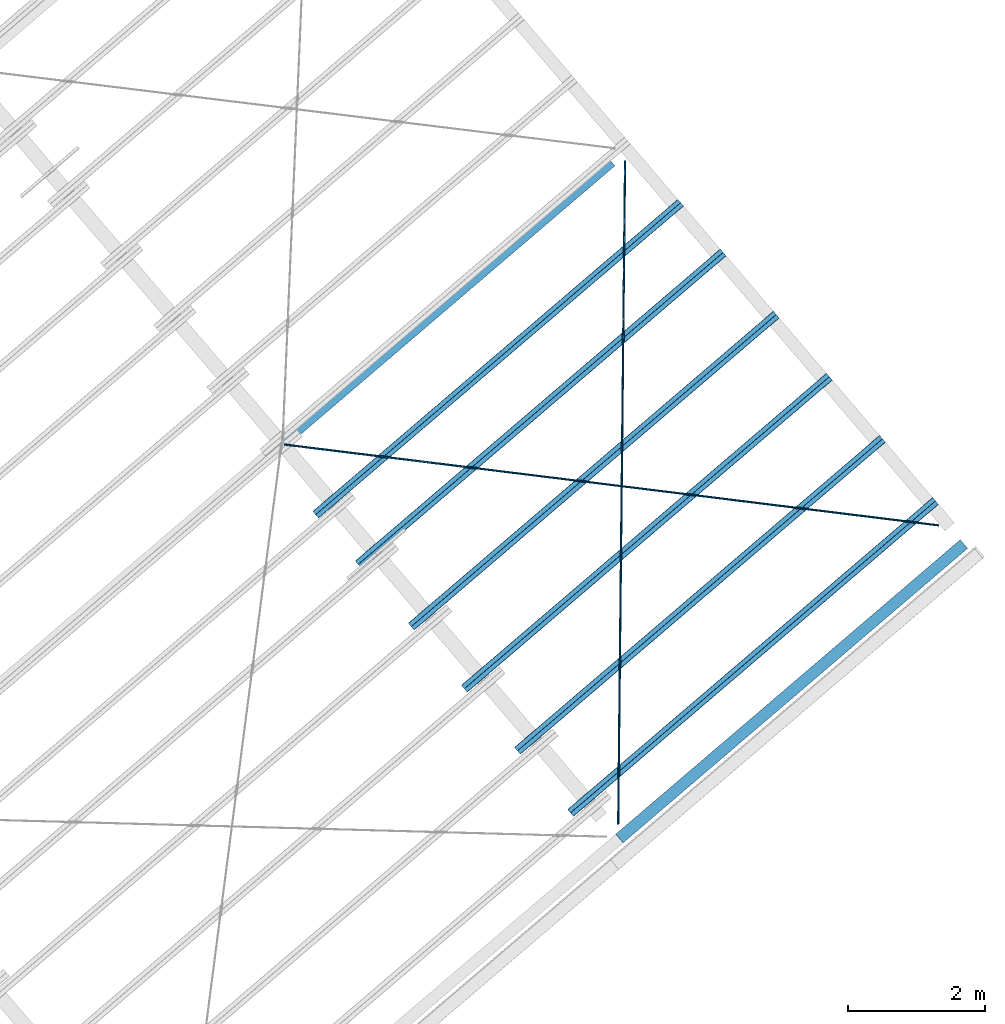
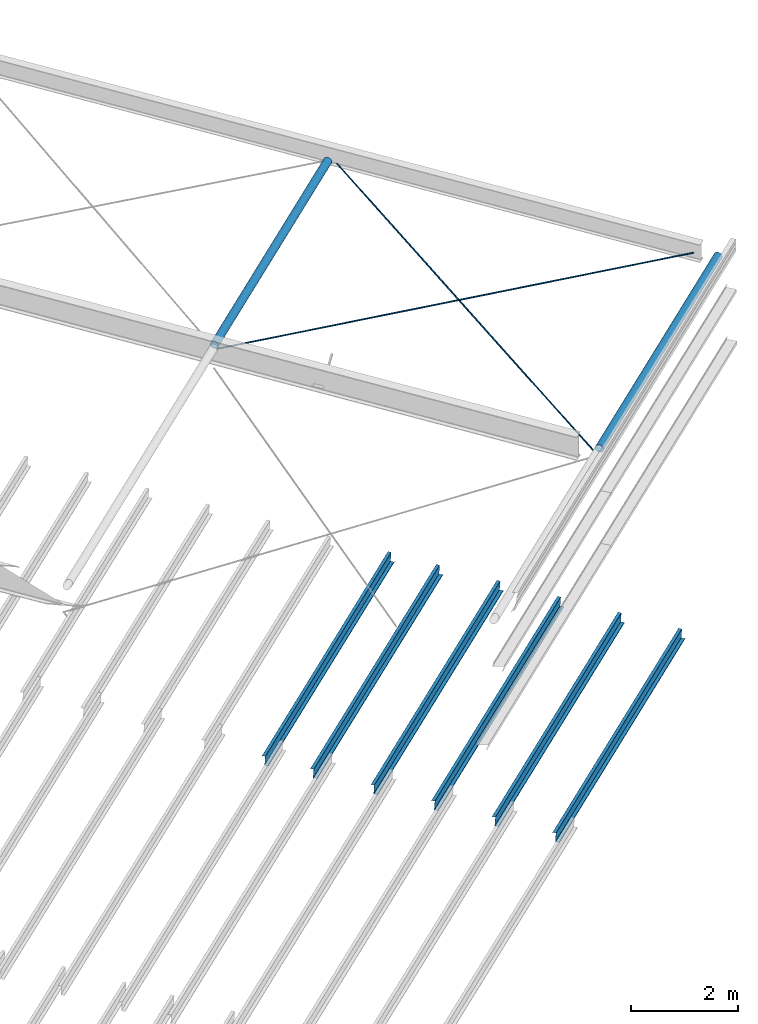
# One storey, part 16 of 25: 10 beams, 2 elements without a shape of their own.
"""IFC2X3 building model written with IfcOpenShell, lengths in millimetres."""

import ifcopenshell
import ifcopenshell.guid

model = None  # the IFC model being written
_history = None  # IfcOwnerHistory: only IFC2X3 demands one
_inside = {}  # id of a spatial element -> (the spatial element, [elements in it])
_under = {}  # id of a project, library or spatial element -> (it, [spatial elements below it])
_declared = {}  # id of a project -> (the project, [libraries it declares])
_typed = {}  # id of a type object -> (the type object, [elements of that type])
_made_of = {}  # id of a material, layer set ... -> (it, [elements and type objects made of it])


def new_model(schema):
    """Start an empty IFC model of exactly this schema.

    Asked for "IFC4X3", IfcOpenShell would pick the latest addendum, in which some entities
    have other attributes; the version numbers below select the first issue.
    IFC2X3 requires an IfcOwnerHistory on every rooted entity: one is made here for all.
    """
    global model, _history
    if schema == "IFC4X3":
        model = ifcopenshell.file(schema_version=(4, 3, 0, 0))
    else:
        model = ifcopenshell.file(schema=schema)
    _inside.clear()
    _under.clear()
    _declared.clear()
    _typed.clear()
    _made_of.clear()
    _history = None
    if model.schema == "IFC2X3":
        org = make("IfcOrganization", Name="unknown")
        user = make(
            "IfcPersonAndOrganization",
            ThePerson=make("IfcPerson", FamilyName="unknown"),
            TheOrganization=org,
        )
        app = make(
            "IfcApplication",
            ApplicationDeveloper=org,
            Version="unknown",
            ApplicationFullName="unknown",
            ApplicationIdentifier="unknown",
        )
        _history = make(
            "IfcOwnerHistory",
            OwningUser=user,
            OwningApplication=app,
            ChangeAction="ADDED",
            CreationDate=0,
        )
    return model


def make(cls, **values):
    """One entity of the class cls with the attributes given. An attribute that is None is left unset."""
    return model.create_entity(
        cls, **{name: value for name, value in values.items() if value is not None}
    )


def entity(cls, *values):
    """Any entity or typed value of the class cls, its attributes in the order of the schema. None: left unset."""
    e = model.create_entity(cls)
    for i, value in enumerate(values):
        if value is not None:
            e[i] = value
    return e


def rooted(cls, **values):
    """An entity with a GlobalId (a new one), such as an element, a storey or a relation."""
    return make(cls, GlobalId=ifcopenshell.guid.new(), OwnerHistory=_history, **values)


def si_unit(unit_type, name, prefix=None):
    """IfcSIUnit, for example si_unit("LENGTHUNIT", "METRE", prefix="MILLI")."""
    return make("IfcSIUnit", UnitType=unit_type, Prefix=prefix, Name=name)


def converted_unit(unit_type, name, factor, base, dimensions=None, offset=None):
    """IfcConversionBasedUnit, such as the inch: factor (a typed value) times the base unit."""
    return make(
        "IfcConversionBasedUnit"
        if offset is None
        else "IfcConversionBasedUnitWithOffset",
        ConversionOffset=offset,
        Dimensions=None
        if dimensions is None
        else entity("IfcDimensionalExponents", *dimensions),
        UnitType=unit_type,
        Name=name,
        ConversionFactor=make(
            "IfcMeasureWithUnit", ValueComponent=factor, UnitComponent=base
        ),
    )


def derived_unit(unit_type, elements):
    """IfcDerivedUnit: a product of units, each with its exponent."""
    return make(
        "IfcDerivedUnit",
        Elements=[
            make("IfcDerivedUnitElement", Unit=unit, Exponent=power)
            for unit, power in elements
        ],
        UnitType=unit_type,
    )


def assignment(units):
    """IfcUnitAssignment: the units of a project."""
    return None if units is None else make("IfcUnitAssignment", Units=units)


def point(xyz):
    """IfcCartesianPoint."""
    return None if xyz is None else make("IfcCartesianPoint", Coordinates=xyz)


def direction(xyz):
    """IfcDirection."""
    return None if xyz is None else make("IfcDirection", DirectionRatios=xyz)


def frame(location, z_axis=None, x_axis=None):
    """IfcAxis2Placement3D, a coordinate frame: its origin and axes. An axis left out is left unset."""
    return make(
        "IfcAxis2Placement3D",
        Location=point(location),
        Axis=direction(z_axis),
        RefDirection=direction(x_axis),
    )


def frame_2d(location, x_axis=None):
    """IfcAxis2Placement2D, a coordinate frame in the plane: its origin and x axis."""
    return make(
        "IfcAxis2Placement2D", Location=point(location), RefDirection=direction(x_axis)
    )


def origin():
    """The frame at (0, 0, 0) with its axes left unset."""
    return frame((0.0, 0.0, 0.0))


def origin_2d_with_axis():
    """The frame at (0, 0) in the plane with the x axis (1, 0) written out."""
    return frame_2d((0.0, 0.0), x_axis=(1.0, 0.0))


def place(relative_to, where):
    """IfcLocalPlacement: puts the frame where relative to a parent placement (None: the world)."""
    return make(
        "IfcLocalPlacement", PlacementRelTo=relative_to, RelativePlacement=where
    )


def context(
    kind, dimensions, precision=None, world=None, true_north=None, identifier=None
):
    """IfcGeometricRepresentationContext, for example the 3D "Model" context."""
    return make(
        "IfcGeometricRepresentationContext",
        ContextIdentifier=identifier,
        ContextType=kind,
        CoordinateSpaceDimension=dimensions,
        Precision=precision,
        WorldCoordinateSystem=world,
        TrueNorth=true_north,
    )


def subcontext(parent, identifier, kind, view, scale=None):
    """IfcGeometricRepresentationSubContext, for example "Body" below "Model"."""
    return make(
        "IfcGeometricRepresentationSubContext",
        ContextIdentifier=identifier,
        ContextType=kind,
        ParentContext=parent,
        TargetScale=scale,
        TargetView=view,
    )


def project(units=None, contexts=None):
    """IfcProject with its units and contexts."""
    return rooted(
        "IfcProject",
        Name="project",
        RepresentationContexts=contexts,
        UnitsInContext=assignment(units),
    )


def spatial(cls, under=None, at=None, **own):
    """A site, building, storey or space (cls), placed at a placement, below another one or the project."""
    s = rooted(cls, ObjectPlacement=at, **own)
    if under is not None:
        _under.setdefault(under.id(), (under, []))[1].append(s)
    return s


def polyline(points):
    """IfcPolyline through the points."""
    return make("IfcPolyline", Points=[point(p) for p in points])


def circle_curve(where, radius):
    """IfcCircle in the frame where."""
    return make("IfcCircle", Position=where, Radius=radius)


def parameter(value):
    """IfcParameterValue: where a trimmed curve begins or ends, as a parameter of its basis curve."""
    return model.create_entity("IfcParameterValue", value)


def trimmed(basis, trim1, trim2, sense, master):
    """IfcTrimmedCurve: the piece of a basis curve between two trims."""
    return make(
        "IfcTrimmedCurve",
        BasisCurve=basis,
        Trim1=trim1,
        Trim2=trim2,
        SenseAgreement=sense,
        MasterRepresentation=master,
    )


def segment(curve, same_sense, transition):
    """IfcCompositeCurveSegment."""
    return make(
        "IfcCompositeCurveSegment",
        Transition=transition,
        SameSense=same_sense,
        ParentCurve=curve,
    )


def composite_curve(segments, self_intersect=None):
    """IfcCompositeCurve: segments joined end to end."""
    return make("IfcCompositeCurve", Segments=segments, SelfIntersect=self_intersect)


def profile(cls, at=None, kind="AREA", **sizes):
    """A parametric profile (cls). Its sizes go by their IFC names, for example OverallWidth=200.0."""
    return make(cls, ProfileType=kind, Position=at, **sizes)


def circle(**sizes):
    """IfcCircleProfileDef."""
    return profile("IfcCircleProfileDef", **sizes)


def hollow_circle(**sizes):
    """IfcCircleHollowProfileDef."""
    return profile("IfcCircleHollowProfileDef", **sizes)


def outline(outer, holes=None, kind="AREA"):
    """IfcArbitraryClosedProfileDef: a profile drawn as a closed curve; with holes, ...WithVoids."""
    if holes is None:
        return make("IfcArbitraryClosedProfileDef", ProfileType=kind, OuterCurve=outer)
    return make(
        "IfcArbitraryProfileDefWithVoids",
        ProfileType=kind,
        OuterCurve=outer,
        InnerCurves=holes,
    )


def extrude(swept, where, along, depth):
    """IfcExtrudedAreaSolid: the profile swept, set in the frame where, extruded along a direction by depth."""
    return make(
        "IfcExtrudedAreaSolid",
        SweptArea=swept,
        Position=where,
        ExtrudedDirection=direction(along),
        Depth=depth,
    )


def shape(context_of_items, identifier, shape_type, items):
    """IfcShapeRepresentation: the items that make up one representation, for example the "Body"."""
    return make(
        "IfcShapeRepresentation",
        ContextOfItems=context_of_items,
        RepresentationIdentifier=identifier,
        RepresentationType=shape_type,
        Items=items,
    )


def material(Name=None, Category=None):
    """IfcMaterial."""
    return make("IfcMaterial", Name=Name, Category=Category)


def made_of(thing, what):
    """Note that an element or type object is made of a material, layer set ...; save() writes the relation."""
    if what is not None:
        _made_of.setdefault(what.id(), (what, []))[1].append(thing)
    return thing


def type_object(cls, material=None, **own):
    """A type object (cls), such as IfcWallType, which elements share."""
    return made_of(rooted(cls, **own), material)


def element(
    cls,
    number,
    at=None,
    inside=None,
    cuts=None,
    type_object=None,
    material=None,
    context=None,
    identifier="Body",
    shape_type=None,
    held_by="IfcProductDefinitionShape",
    body=None,
    shapes=None,
    **own,
):
    """One element of the class cls, such as IfcWall. Its Tag is "e" and its number.

    at: its placement. inside: the storey or other place that contains it. cuts: it is an
    opening in that element (IfcRelVoidsElement). A single representation is given by context,
    identifier, shape_type and body (its items); several are given by shapes. held_by: the class
    of the entity that holds the representations. save() writes the other relations.
    """
    e = rooted(cls, Tag="e%d" % number, ObjectPlacement=at, **own)
    if body is not None:
        shapes = [shape(context, identifier, shape_type, body)]
    if shapes is not None:
        e.Representation = make(held_by, Representations=shapes)
    if inside is not None:
        _inside.setdefault(inside.id(), (inside, []))[1].append(e)
    if cuts is not None:
        rooted(
            "IfcRelVoidsElement", RelatingBuildingElement=cuts, RelatedOpeningElement=e
        )
    if type_object is not None:
        _typed.setdefault(type_object.id(), (type_object, []))[1].append(e)
    return made_of(e, material)


def aggregate(whole, parts):
    """IfcRelAggregates: a whole, such as a stair, and the parts it consists of."""
    return rooted("IfcRelAggregates", RelatingObject=whole, RelatedObjects=parts)


def save(model, path):
    """Write the relations noted so far, then the file.

    IfcRelAggregates (storeys below a building ...), IfcRelContainedInSpatialStructure (elements
    in a storey), IfcRelDefinesByType, IfcRelAssociatesMaterial and IfcRelDeclares: one each for
    every whole, place, type object, material and project.
    """
    for whole, parts in _under.values():
        aggregate(whole, parts)
    for where, things in _inside.values():
        rooted(
            "IfcRelContainedInSpatialStructure",
            RelatedElements=things,
            RelatingStructure=where,
        )
    for kind, things in _typed.values():
        rooted("IfcRelDefinesByType", RelatedObjects=things, RelatingType=kind)
    for what, things in _made_of.values():
        rooted("IfcRelAssociatesMaterial", RelatedObjects=things, RelatingMaterial=what)
    for by, libraries in _declared.values():
        rooted("IfcRelDeclares", RelatingContext=by, RelatedDefinitions=libraries)
    model.write(path)


model = new_model("IFC2X3")

# Units and contexts
model_context = context("Model", 3, precision=0.01, world=origin(), true_north=direction((6.123031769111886e-17, 1.0)))
body_context = subcontext(model_context, "Body", "Model", "MODEL_VIEW")
ifc_project = project(units=[si_unit("LENGTHUNIT", "METRE", prefix="MILLI"), si_unit("AREAUNIT", "SQUARE_METRE"), si_unit("VOLUMEUNIT", "CUBIC_METRE"), converted_unit("PLANEANGLEUNIT", "DEGREE", entity("IfcRatioMeasure", 0.017453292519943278), si_unit("PLANEANGLEUNIT", "RADIAN"), dimensions=[0, 0, 0, 0, 0, 0, 0]), si_unit("MASSUNIT", "GRAM", prefix="KILO"), derived_unit("MASSDENSITYUNIT", [(si_unit("MASSUNIT", "GRAM", prefix="KILO"), 1), (si_unit("LENGTHUNIT", "METRE"), -3)]), derived_unit("MOMENTOFINERTIAUNIT", [(si_unit("LENGTHUNIT", "METRE"), 4)]), si_unit("TIMEUNIT", "SECOND"), si_unit("FREQUENCYUNIT", "HERTZ"), si_unit("THERMODYNAMICTEMPERATUREUNIT", "DEGREE_CELSIUS"), derived_unit("THERMALTRANSMITTANCEUNIT", [(si_unit("MASSUNIT", "GRAM", prefix="KILO"), 1), (si_unit("THERMODYNAMICTEMPERATUREUNIT", "KELVIN"), -1), (si_unit("TIMEUNIT", "SECOND"), -3)]), derived_unit("VOLUMETRICFLOWRATEUNIT", [(si_unit("LENGTHUNIT", "METRE"), 3), (si_unit("TIMEUNIT", "SECOND"), -1)]), derived_unit("MASSFLOWRATEUNIT", [(si_unit("MASSUNIT", "GRAM", prefix="KILO"), 1), (si_unit("TIMEUNIT", "SECOND"), -1)]), derived_unit("ROTATIONALFREQUENCYUNIT", [(si_unit("TIMEUNIT", "SECOND"), -1)]), si_unit("ELECTRICCURRENTUNIT", "AMPERE"), si_unit("ELECTRICVOLTAGEUNIT", "VOLT"), si_unit("POWERUNIT", "WATT"), si_unit("FORCEUNIT", "NEWTON", prefix="KILO"), si_unit("ILLUMINANCEUNIT", "LUX"), si_unit("LUMINOUSFLUXUNIT", "LUMEN"), si_unit("LUMINOUSINTENSITYUNIT", "CANDELA"), derived_unit("USERDEFINED", [(si_unit("MASSUNIT", "GRAM", prefix="KILO"), -1), (si_unit("LENGTHUNIT", "METRE"), -2), (si_unit("TIMEUNIT", "SECOND"), 3), (si_unit("LUMINOUSFLUXUNIT", "LUMEN"), 1)]), derived_unit("SOUNDPOWERUNIT", [(si_unit("MASSUNIT", "GRAM", prefix="KILO"), 1), (si_unit("LENGTHUNIT", "METRE"), 2), (si_unit("TIMEUNIT", "SECOND"), -3)]), derived_unit("LINEARVELOCITYUNIT", [(si_unit("LENGTHUNIT", "METRE"), 1), (si_unit("TIMEUNIT", "SECOND"), -1)]), si_unit("PRESSUREUNIT", "PASCAL"), derived_unit("USERDEFINED", [(si_unit("LENGTHUNIT", "METRE"), -2), (si_unit("MASSUNIT", "GRAM", prefix="KILO"), 1), (si_unit("TIMEUNIT", "SECOND"), -2)]), derived_unit("LINEARFORCEUNIT", [(si_unit("MASSUNIT", "GRAM", prefix="KILO"), 1), (si_unit("LENGTHUNIT", "METRE"), 1), (si_unit("TIMEUNIT", "SECOND"), -2), (si_unit("LENGTHUNIT", "METRE"), -1)]), derived_unit("PLANARFORCEUNIT", [(si_unit("MASSUNIT", "GRAM", prefix="KILO"), 1), (si_unit("LENGTHUNIT", "METRE"), 1), (si_unit("TIMEUNIT", "SECOND"), -2), (si_unit("LENGTHUNIT", "METRE"), -2)])], contexts=[model_context])

# Site, building, storey
site_placement = place(None, frame((962.4174930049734, -6014.433753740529, 0.0), z_axis=(0.0, 0.0, 1.0), x_axis=(0.7601792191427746, 0.649713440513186, 0.0)))
site = spatial("IfcSite", under=ifc_project, at=site_placement, Name="Default", CompositionType="ELEMENT")
building_placement = place(site_placement, origin())
building = spatial("IfcBuilding", under=site, at=building_placement, CompositionType="ELEMENT")
storey_placement = place(building_placement, frame((0.0, 0.0, 9200.0)))
storey = spatial("IfcBuildingStorey", under=building, at=storey_placement, Name="TOP OF CEILING", CompositionType="ELEMENT", Elevation=9200.000000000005)

# Beams
ifc_material_1 = material(Name="Metal - Steel - 300 MPa")
beam_type_1 = type_object("IfcBeamType", Name="ADSK_AU_CHS-Circular Hollow Sections (AS 1163_C350):168.3x6.4CHS", PredefinedType="NOTDEFINED")
beam_1_placement = place(storey_placement, frame((185517.07403923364, -18370.815582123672, 2607.878556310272), z_axis=(0.0, 0.0, 1.0), x_axis=(-1.0, 0.0, 0.0)))
element("IfcBeam", 1, at=beam_1_placement, inside=storey, type_object=beam_type_1, material=ifc_material_1, Name="ADSK_AU_CHS-Circular Hollow Sections (AS 1163_C350):168.3x6.4CHS", ObjectType="ADSK_AU_CHS-Circular Hollow Sections (AS 1163_C350):168.3x6.4CHS", context=body_context, shape_type="SweptSolid", body=[
    extrude(hollow_circle(Radius=84.15000000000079, WallThickness=6.4000000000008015, at=origin_2d_with_axis()), frame((25.113834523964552, 0.0, -84.15000000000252), z_axis=(1.0, 0.0, 0.0), x_axis=(0.0, 1.0, 0.0)), (0.0, 0.0, 1.0), 6334.886165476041),
])
beam_2_placement = place(storey_placement, frame((179139.97854851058, -25988.428082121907, 2036.6362333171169)))
element("IfcBeam", 2, at=beam_2_placement, inside=storey, type_object=beam_type_1, material=ifc_material_1, Name="ADSK_AU_CHS-Circular Hollow Sections (AS 1163_C350):168.3x6.4CHS", ObjectType="ADSK_AU_CHS-Circular Hollow Sections (AS 1163_C350):168.3x6.4CHS", context=body_context, shape_type="SweptSolid", body=[
    extrude(hollow_circle(Radius=84.15000000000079, WallThickness=6.4000000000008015, at=origin_2d_with_axis()), frame((0.1000000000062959, 0.0, -84.15000000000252), z_axis=(1.0, 0.0, 0.0), x_axis=(0.0, 1.0, 0.0)), (0.0, 0.0, 1.0), 6639.199999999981),
])
beam_type_2 = type_object("IfcBeamType", Name="ADSK_AU_Round Bars (AS 3679_1):24ROD", PredefinedType="NOTDEFINED")
beam_3_placement = place(storey_placement, frame((179138.96020470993, -25957.92808212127, 1800.0), z_axis=(-0.03977126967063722, -0.04556912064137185, 0.9981691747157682), x_axis=(0.6563477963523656, 0.752030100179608, 0.06048387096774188)))
element("IfcBeam", 3, at=beam_3_placement, inside=storey, type_object=beam_type_2, Name="ADSK_AU_Round Bars (AS 3679_1):24ROD", ObjectType="ADSK_AU_Round Bars (AS 3679_1):24ROD", context=body_context, shape_type="SweptSolid", body=[
    extrude(circle(Radius=11.999999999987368, at=frame_2d((2.848164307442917e-12, 1.277323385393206e-11), x_axis=(1.0, 0.0))), frame((185.6999999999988, 0.0, -12.0), z_axis=(1.0, 0.0, 0.0), x_axis=(0.0, -1.0, 0.0)), (0.0, 0.0, 1.0), 9734.300000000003),
])
beam_4_placement = place(storey_placement, frame((185677.52010918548, -25541.56733446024, 2000.0), z_axis=(0.0313053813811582, -0.03423693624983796, 0.9989233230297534), x_axis=(-0.6740783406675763, 0.737201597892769, 0.04639175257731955)))
element("IfcBeam", 4, at=beam_4_placement, inside=storey, type_object=beam_type_2, Name="ADSK_AU_Round Bars (AS 3679_1):24ROD", ObjectType="ADSK_AU_Round Bars (AS 3679_1):24ROD", context=body_context, shape_type="SweptSolid", body=[
    extrude(circle(Radius=12.000000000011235, at=frame_2d((-2.5015492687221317e-23, -1.7307219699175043e-11), x_axis=(1.0, 0.0))), frame((0.0, 0.0, -12.0), z_axis=(1.0, 0.0, 0.0), x_axis=(0.0, -1.0, 0.0)), (0.0, 0.0, 1.0), 9674.300000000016),
])

# Assembly, beams
assembly_1_placement = place(storey_placement, origin())
assembly_1 = element("IfcElementAssembly", 5, at=assembly_1_placement, inside=storey, Name="Structural Beam System:Structural Beam System 1", ObjectType="Structural Beam System:Structural Beam System 1", AssemblyPlace="NOTDEFINED", PredefinedType="BEAM_GRID")
ifc_material_2 = material(Name="Metal - Light Gauge")
beam_type_3 = type_object("IfcBeamType", Name="ADSK_AU_Light Gauge-Zeds:Z20024", PredefinedType="NOTDEFINED")
beam_5_placement = place(building_placement, frame((185873.56020470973, -20448.786024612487, 2760.0899743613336), z_axis=(0.0, 0.0, 1.0), x_axis=(-1.0, 0.0, 0.0)))
beam_5 = element("IfcBeam", 6, at=beam_5_placement, type_object=beam_type_3, material=ifc_material_2, Name="ADSK_AU_Light Gauge-Zeds:Z20024", ObjectType="ADSK_AU_Light Gauge-Zeds:Z20024", context=body_context, shape_type="SweptSolid", body=[
    extrude(outline(composite_curve([segment(polyline([(99.10000000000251, 1.030000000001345), (99.10000000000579, -71.66999999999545)]), True, "CONTINUOUS"), segment(trimmed(circle_curve(frame_2d((97.10000000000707, -71.66999999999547), x_axis=(0.0, -1.0)), 1.9999999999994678), [parameter(0.0)], [parameter(90.00000000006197)], True, "PARAMETER"), False, "CONTINUOUS"), segment(polyline([(97.10000000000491, -73.66999999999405), (79.5000000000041, -73.66999999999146)]), True, "CONTINUOUS"), segment(polyline([(79.5000000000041, -73.66999999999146), (79.50000000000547, -76.06999999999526)]), True, "CONTINUOUS"), segment(polyline([(79.50000000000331, -76.0699999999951), (97.10000000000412, -76.06999999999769)]), True, "CONTINUOUS"), segment(trimmed(circle_curve(frame_2d((97.10000000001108, -71.67000000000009), x_axis=(1.0, 0.0)), 4.39999999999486), [parameter(269.9999999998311)], [parameter(0.0)], True, "PARAMETER"), True, "CONTINUOUS"), segment(polyline([(101.50000000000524, -71.66999999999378), (101.50000000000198, 1.0300000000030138)]), True, "CONTINUOUS"), segment(trimmed(circle_curve(frame_2d((97.10000000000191, 1.030000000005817), x_axis=(0.0, 1.0)), 4.399999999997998), [parameter(269.9999999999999)], [parameter(0.0)], True, "PARAMETER"), True, "CONTINUOUS"), segment(polyline([(97.10000000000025, 5.430000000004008), (-97.09999999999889, 5.429999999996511)]), True, "CONTINUOUS"), segment(trimmed(circle_curve(frame_2d((-97.10000000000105, 7.42999999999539), x_axis=(-1.0, 0.0)), 1.9999999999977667), [parameter(0.0)], [parameter(90.00000000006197)], True, "PARAMETER"), False, "CONTINUOUS"), segment(polyline([(-99.09999999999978, 7.429999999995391), (-99.10000000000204, 66.02999999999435)]), True, "CONTINUOUS"), segment(trimmed(circle_curve(frame_2d((-97.10000000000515, 66.02999999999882), x_axis=(0.0, 1.0)), 1.9999999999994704), [parameter(0.0)], [parameter(90.00000000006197)], True, "PARAMETER"), False, "CONTINUOUS"), segment(polyline([(-97.10000000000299, 68.0299999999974), (-79.5000000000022, 68.02999999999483)]), True, "CONTINUOUS"), segment(polyline([(-79.50000000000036, 68.02999999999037), (-79.50000000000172, 70.42999999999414)]), True, "CONTINUOUS"), segment(polyline([(-79.50000000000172, 70.42999999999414), (-97.10000000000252, 70.42999999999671)]), True, "CONTINUOUS"), segment(trimmed(circle_curve(frame_2d((-97.10000000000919, 66.03000000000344), x_axis=(-1.0, 0.0)), 4.3999999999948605), [parameter(269.9999999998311)], [parameter(0.0)], True, "PARAMETER"), True, "CONTINUOUS"), segment(polyline([(-101.50000000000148, 66.02999999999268), (-101.49999999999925, 7.429999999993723)]), True, "CONTINUOUS"), segment(trimmed(circle_curve(frame_2d((-97.10000000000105, 7.42999999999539), x_axis=(0.0, -1.0)), 4.399999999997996), [parameter(269.9999999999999)], [parameter(0.0)], True, "PARAMETER"), True, "CONTINUOUS"), segment(polyline([(-97.0999999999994, 3.0299999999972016), (97.09999999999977, 3.0300000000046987)]), True, "CONTINUOUS"), segment(trimmed(circle_curve(frame_2d((97.10000000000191, 1.030000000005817), x_axis=(1.0, 0.0)), 1.9999999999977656), [parameter(0.0)], [parameter(90.00000000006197)], True, "PARAMETER"), False, "CONTINUOUS")], self_intersect=False)), frame((0.0, -1.6635092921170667, -101.63152875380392), z_axis=(-1.0, 0.0, 0.0), x_axis=(0.0, -0.06975647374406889, -0.9975640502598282)), (0.0, 0.0, -1.0), 7035.000000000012),
])
beam_6_placement = place(building_placement, frame((185873.56020470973, -21645.86288492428, 2676.3822058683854), z_axis=(0.0, 0.0, 1.0), x_axis=(-1.0, 0.0, 0.0)))
beam_6 = element("IfcBeam", 7, at=beam_6_placement, type_object=beam_type_3, material=ifc_material_2, Name="ADSK_AU_Light Gauge-Zeds:Z20024", ObjectType="ADSK_AU_Light Gauge-Zeds:Z20024", context=body_context, shape_type="SweptSolid", body=[
    extrude(outline(composite_curve([segment(polyline([(99.10000000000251, 1.030000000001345), (99.10000000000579, -71.66999999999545)]), True, "CONTINUOUS"), segment(trimmed(circle_curve(frame_2d((97.10000000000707, -71.66999999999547), x_axis=(0.0, -1.0)), 1.9999999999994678), [parameter(0.0)], [parameter(90.00000000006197)], True, "PARAMETER"), False, "CONTINUOUS"), segment(polyline([(97.10000000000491, -73.66999999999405), (79.5000000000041, -73.66999999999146)]), True, "CONTINUOUS"), segment(polyline([(79.5000000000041, -73.66999999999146), (79.50000000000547, -76.06999999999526)]), True, "CONTINUOUS"), segment(polyline([(79.50000000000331, -76.0699999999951), (97.10000000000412, -76.06999999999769)]), True, "CONTINUOUS"), segment(trimmed(circle_curve(frame_2d((97.10000000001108, -71.67000000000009), x_axis=(1.0, 0.0)), 4.39999999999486), [parameter(269.9999999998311)], [parameter(0.0)], True, "PARAMETER"), True, "CONTINUOUS"), segment(polyline([(101.50000000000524, -71.66999999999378), (101.50000000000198, 1.0300000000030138)]), True, "CONTINUOUS"), segment(trimmed(circle_curve(frame_2d((97.10000000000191, 1.030000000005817), x_axis=(0.0, 1.0)), 4.399999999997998), [parameter(269.9999999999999)], [parameter(0.0)], True, "PARAMETER"), True, "CONTINUOUS"), segment(polyline([(97.10000000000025, 5.430000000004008), (-97.09999999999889, 5.429999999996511)]), True, "CONTINUOUS"), segment(trimmed(circle_curve(frame_2d((-97.10000000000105, 7.42999999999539), x_axis=(-1.0, 0.0)), 1.9999999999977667), [parameter(0.0)], [parameter(90.00000000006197)], True, "PARAMETER"), False, "CONTINUOUS"), segment(polyline([(-99.09999999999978, 7.429999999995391), (-99.10000000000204, 66.02999999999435)]), True, "CONTINUOUS"), segment(trimmed(circle_curve(frame_2d((-97.10000000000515, 66.02999999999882), x_axis=(0.0, 1.0)), 1.9999999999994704), [parameter(0.0)], [parameter(90.00000000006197)], True, "PARAMETER"), False, "CONTINUOUS"), segment(polyline([(-97.10000000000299, 68.0299999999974), (-79.5000000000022, 68.02999999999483)]), True, "CONTINUOUS"), segment(polyline([(-79.50000000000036, 68.02999999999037), (-79.50000000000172, 70.42999999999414)]), True, "CONTINUOUS"), segment(polyline([(-79.50000000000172, 70.42999999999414), (-97.10000000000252, 70.42999999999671)]), True, "CONTINUOUS"), segment(trimmed(circle_curve(frame_2d((-97.10000000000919, 66.03000000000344), x_axis=(-1.0, 0.0)), 4.3999999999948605), [parameter(269.9999999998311)], [parameter(0.0)], True, "PARAMETER"), True, "CONTINUOUS"), segment(polyline([(-101.50000000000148, 66.02999999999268), (-101.49999999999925, 7.429999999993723)]), True, "CONTINUOUS"), segment(trimmed(circle_curve(frame_2d((-97.10000000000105, 7.42999999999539), x_axis=(0.0, -1.0)), 4.399999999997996), [parameter(269.9999999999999)], [parameter(0.0)], True, "PARAMETER"), True, "CONTINUOUS"), segment(polyline([(-97.0999999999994, 3.0299999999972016), (97.09999999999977, 3.0300000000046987)]), True, "CONTINUOUS"), segment(trimmed(circle_curve(frame_2d((97.10000000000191, 1.030000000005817), x_axis=(1.0, 0.0)), 1.9999999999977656), [parameter(0.0)], [parameter(90.00000000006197)], True, "PARAMETER"), False, "CONTINUOUS")], self_intersect=False)), frame((0.0, -1.6635092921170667, -101.63152875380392), z_axis=(-1.0, 0.0, 0.0), x_axis=(0.0, -0.06975647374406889, -0.9975640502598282)), (0.0, 0.0, -1.0), 7035.000000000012),
])
beam_7_placement = place(building_placement, frame((185873.56020470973, -22842.939745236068, 2592.6744373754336), z_axis=(0.0, 0.0, 1.0), x_axis=(-1.0, 0.0, 0.0)))
beam_7 = element("IfcBeam", 8, at=beam_7_placement, type_object=beam_type_3, material=ifc_material_2, Name="ADSK_AU_Light Gauge-Zeds:Z20024", ObjectType="ADSK_AU_Light Gauge-Zeds:Z20024", context=body_context, shape_type="SweptSolid", body=[
    extrude(outline(composite_curve([segment(polyline([(99.10000000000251, 1.030000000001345), (99.10000000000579, -71.66999999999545)]), True, "CONTINUOUS"), segment(trimmed(circle_curve(frame_2d((97.10000000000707, -71.66999999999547), x_axis=(0.0, -1.0)), 1.9999999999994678), [parameter(0.0)], [parameter(90.00000000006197)], True, "PARAMETER"), False, "CONTINUOUS"), segment(polyline([(97.10000000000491, -73.66999999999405), (79.5000000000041, -73.66999999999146)]), True, "CONTINUOUS"), segment(polyline([(79.5000000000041, -73.66999999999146), (79.50000000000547, -76.06999999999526)]), True, "CONTINUOUS"), segment(polyline([(79.50000000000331, -76.0699999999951), (97.10000000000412, -76.06999999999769)]), True, "CONTINUOUS"), segment(trimmed(circle_curve(frame_2d((97.10000000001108, -71.67000000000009), x_axis=(1.0, 0.0)), 4.39999999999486), [parameter(269.9999999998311)], [parameter(0.0)], True, "PARAMETER"), True, "CONTINUOUS"), segment(polyline([(101.50000000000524, -71.66999999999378), (101.50000000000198, 1.0300000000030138)]), True, "CONTINUOUS"), segment(trimmed(circle_curve(frame_2d((97.10000000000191, 1.030000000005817), x_axis=(0.0, 1.0)), 4.399999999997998), [parameter(269.9999999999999)], [parameter(0.0)], True, "PARAMETER"), True, "CONTINUOUS"), segment(polyline([(97.10000000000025, 5.430000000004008), (-97.09999999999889, 5.429999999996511)]), True, "CONTINUOUS"), segment(trimmed(circle_curve(frame_2d((-97.10000000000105, 7.42999999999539), x_axis=(-1.0, 0.0)), 1.9999999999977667), [parameter(0.0)], [parameter(90.00000000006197)], True, "PARAMETER"), False, "CONTINUOUS"), segment(polyline([(-99.09999999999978, 7.429999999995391), (-99.10000000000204, 66.02999999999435)]), True, "CONTINUOUS"), segment(trimmed(circle_curve(frame_2d((-97.10000000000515, 66.02999999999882), x_axis=(0.0, 1.0)), 1.9999999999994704), [parameter(0.0)], [parameter(90.00000000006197)], True, "PARAMETER"), False, "CONTINUOUS"), segment(polyline([(-97.10000000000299, 68.0299999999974), (-79.5000000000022, 68.02999999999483)]), True, "CONTINUOUS"), segment(polyline([(-79.50000000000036, 68.02999999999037), (-79.50000000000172, 70.42999999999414)]), True, "CONTINUOUS"), segment(polyline([(-79.50000000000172, 70.42999999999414), (-97.10000000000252, 70.42999999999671)]), True, "CONTINUOUS"), segment(trimmed(circle_curve(frame_2d((-97.10000000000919, 66.03000000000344), x_axis=(-1.0, 0.0)), 4.3999999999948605), [parameter(269.9999999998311)], [parameter(0.0)], True, "PARAMETER"), True, "CONTINUOUS"), segment(polyline([(-101.50000000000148, 66.02999999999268), (-101.49999999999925, 7.429999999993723)]), True, "CONTINUOUS"), segment(trimmed(circle_curve(frame_2d((-97.10000000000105, 7.42999999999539), x_axis=(0.0, -1.0)), 4.399999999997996), [parameter(269.9999999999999)], [parameter(0.0)], True, "PARAMETER"), True, "CONTINUOUS"), segment(polyline([(-97.0999999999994, 3.0299999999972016), (97.09999999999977, 3.0300000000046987)]), True, "CONTINUOUS"), segment(trimmed(circle_curve(frame_2d((97.10000000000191, 1.030000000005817), x_axis=(1.0, 0.0)), 1.9999999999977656), [parameter(0.0)], [parameter(90.00000000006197)], True, "PARAMETER"), False, "CONTINUOUS")], self_intersect=False)), frame((0.0, -1.6635092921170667, -101.63152875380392), z_axis=(-1.0, 0.0, 0.0), x_axis=(0.0, -0.06975647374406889, -0.9975640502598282)), (0.0, 0.0, -1.0), 7035.000000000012),
])
beam_8_placement = place(building_placement, frame((185873.56020470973, -24040.01660554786, 2508.9666688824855), z_axis=(0.0, 0.0, 1.0), x_axis=(-1.0, 0.0, 0.0)))
beam_8 = element("IfcBeam", 9, at=beam_8_placement, type_object=beam_type_3, material=ifc_material_2, Name="ADSK_AU_Light Gauge-Zeds:Z20024", ObjectType="ADSK_AU_Light Gauge-Zeds:Z20024", context=body_context, shape_type="SweptSolid", body=[
    extrude(outline(composite_curve([segment(polyline([(99.10000000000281, 1.0300000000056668), (99.10000000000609, -71.66999999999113)]), True, "CONTINUOUS"), segment(trimmed(circle_curve(frame_2d((97.10000000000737, -71.66999999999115), x_axis=(0.0, -1.0)), 1.9999999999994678), [parameter(0.0)], [parameter(90.00000000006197)], True, "PARAMETER"), False, "CONTINUOUS"), segment(polyline([(97.10000000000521, -73.66999999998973), (79.5000000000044, -73.66999999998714)]), True, "CONTINUOUS"), segment(polyline([(79.5000000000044, -73.66999999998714), (79.50000000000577, -76.06999999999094)]), True, "CONTINUOUS"), segment(polyline([(79.50000000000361, -76.06999999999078), (97.10000000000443, -76.06999999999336)]), True, "CONTINUOUS"), segment(trimmed(circle_curve(frame_2d((97.10000000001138, -71.66999999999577), x_axis=(1.0, 0.0)), 4.39999999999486), [parameter(269.9999999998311)], [parameter(0.0)], True, "PARAMETER"), True, "CONTINUOUS"), segment(polyline([(101.50000000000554, -71.66999999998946), (101.50000000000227, 1.030000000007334)]), True, "CONTINUOUS"), segment(trimmed(circle_curve(frame_2d((97.10000000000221, 1.030000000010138), x_axis=(0.0, 1.0)), 4.399999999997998), [parameter(269.9999999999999)], [parameter(0.0)], True, "PARAMETER"), True, "CONTINUOUS"), segment(polyline([(97.10000000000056, 5.430000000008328), (-97.09999999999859, 5.430000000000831)]), True, "CONTINUOUS"), segment(trimmed(circle_curve(frame_2d((-97.10000000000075, 7.429999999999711), x_axis=(-1.0, 0.0)), 1.9999999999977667), [parameter(0.0)], [parameter(90.00000000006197)], True, "PARAMETER"), False, "CONTINUOUS"), segment(polyline([(-99.09999999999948, 7.429999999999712), (-99.10000000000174, 66.02999999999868)]), True, "CONTINUOUS"), segment(trimmed(circle_curve(frame_2d((-97.10000000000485, 66.03000000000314), x_axis=(0.0, 1.0)), 1.9999999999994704), [parameter(0.0)], [parameter(90.00000000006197)], True, "PARAMETER"), False, "CONTINUOUS"), segment(polyline([(-97.1000000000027, 68.03000000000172), (-79.50000000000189, 68.02999999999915)]), True, "CONTINUOUS"), segment(polyline([(-79.50000000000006, 68.02999999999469), (-79.50000000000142, 70.42999999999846)]), True, "CONTINUOUS"), segment(polyline([(-79.50000000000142, 70.42999999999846), (-97.10000000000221, 70.43000000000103)]), True, "CONTINUOUS"), segment(trimmed(circle_curve(frame_2d((-97.10000000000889, 66.03000000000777), x_axis=(-1.0, 0.0)), 4.3999999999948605), [parameter(269.9999999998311)], [parameter(0.0)], True, "PARAMETER"), True, "CONTINUOUS"), segment(polyline([(-101.50000000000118, 66.029999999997), (-101.49999999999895, 7.429999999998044)]), True, "CONTINUOUS"), segment(trimmed(circle_curve(frame_2d((-97.10000000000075, 7.429999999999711), x_axis=(0.0, -1.0)), 4.399999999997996), [parameter(269.9999999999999)], [parameter(0.0)], True, "PARAMETER"), True, "CONTINUOUS"), segment(polyline([(-97.0999999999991, 3.030000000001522), (97.10000000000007, 3.030000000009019)]), True, "CONTINUOUS"), segment(trimmed(circle_curve(frame_2d((97.10000000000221, 1.030000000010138), x_axis=(1.0, 0.0)), 1.9999999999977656), [parameter(0.0)], [parameter(90.00000000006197)], True, "PARAMETER"), False, "CONTINUOUS")], self_intersect=False)), frame((0.0, -1.6635092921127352, -101.63152875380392), z_axis=(-1.0, 0.0, 0.0), x_axis=(0.0, -0.06975647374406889, -0.9975640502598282)), (0.0, 0.0, -1.0), 7035.000000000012),
])
beam_9_placement = place(building_placement, frame((185873.56020470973, -25237.093465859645, 2425.2589003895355), z_axis=(0.0, 0.0, 1.0), x_axis=(-1.0, 0.0, 0.0)))
beam_9 = element("IfcBeam", 10, at=beam_9_placement, type_object=beam_type_3, material=ifc_material_2, Name="ADSK_AU_Light Gauge-Zeds:Z20024", ObjectType="ADSK_AU_Light Gauge-Zeds:Z20024", context=body_context, shape_type="SweptSolid", body=[
    extrude(outline(composite_curve([segment(polyline([(99.10000000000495, 1.0300000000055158), (99.10000000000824, -71.66999999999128)]), True, "CONTINUOUS"), segment(trimmed(circle_curve(frame_2d((97.10000000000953, -71.6699999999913), x_axis=(0.0, -1.0)), 1.9999999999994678), [parameter(0.0)], [parameter(90.00000000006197)], True, "PARAMETER"), False, "CONTINUOUS"), segment(polyline([(97.10000000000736, -73.66999999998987), (79.50000000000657, -73.6699999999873)]), True, "CONTINUOUS"), segment(polyline([(79.50000000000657, -73.6699999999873), (79.50000000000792, -76.06999999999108)]), True, "CONTINUOUS"), segment(polyline([(79.50000000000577, -76.06999999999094), (97.10000000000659, -76.0699999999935)]), True, "CONTINUOUS"), segment(trimmed(circle_curve(frame_2d((97.10000000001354, -71.66999999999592), x_axis=(1.0, 0.0)), 4.39999999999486), [parameter(269.9999999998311)], [parameter(0.0)], True, "PARAMETER"), True, "CONTINUOUS"), segment(polyline([(101.5000000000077, -71.66999999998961), (101.50000000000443, 1.030000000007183)]), True, "CONTINUOUS"), segment(trimmed(circle_curve(frame_2d((97.10000000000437, 1.0300000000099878), x_axis=(0.0, 1.0)), 4.399999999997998), [parameter(269.9999999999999)], [parameter(0.0)], True, "PARAMETER"), True, "CONTINUOUS"), segment(polyline([(97.10000000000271, 5.430000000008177), (-97.09999999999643, 5.43000000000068)]), True, "CONTINUOUS"), segment(trimmed(circle_curve(frame_2d((-97.0999999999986, 7.429999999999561), x_axis=(-1.0, 0.0)), 1.9999999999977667), [parameter(0.0)], [parameter(90.00000000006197)], True, "PARAMETER"), False, "CONTINUOUS"), segment(polyline([(-99.09999999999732, 7.429999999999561), (-99.09999999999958, 66.02999999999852)]), True, "CONTINUOUS"), segment(trimmed(circle_curve(frame_2d((-97.10000000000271, 66.030000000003), x_axis=(0.0, 1.0)), 1.9999999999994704), [parameter(0.0)], [parameter(90.00000000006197)], True, "PARAMETER"), False, "CONTINUOUS"), segment(polyline([(-97.10000000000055, 68.03000000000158), (-79.49999999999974, 68.029999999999)]), True, "CONTINUOUS"), segment(polyline([(-79.4999999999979, 68.02999999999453), (-79.49999999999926, 70.4299999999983)]), True, "CONTINUOUS"), segment(polyline([(-79.49999999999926, 70.4299999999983), (-97.10000000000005, 70.43000000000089)]), True, "CONTINUOUS"), segment(trimmed(circle_curve(frame_2d((-97.10000000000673, 66.03000000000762), x_axis=(-1.0, 0.0)), 4.3999999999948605), [parameter(269.9999999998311)], [parameter(0.0)], True, "PARAMETER"), True, "CONTINUOUS"), segment(polyline([(-101.49999999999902, 66.02999999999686), (-101.49999999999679, 7.429999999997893)]), True, "CONTINUOUS"), segment(trimmed(circle_curve(frame_2d((-97.0999999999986, 7.429999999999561), x_axis=(0.0, -1.0)), 4.399999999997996), [parameter(269.9999999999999)], [parameter(0.0)], True, "PARAMETER"), True, "CONTINUOUS"), segment(polyline([(-97.09999999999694, 3.030000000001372), (97.10000000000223, 3.030000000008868)]), True, "CONTINUOUS"), segment(trimmed(circle_curve(frame_2d((97.10000000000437, 1.0300000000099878), x_axis=(1.0, 0.0)), 1.9999999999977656), [parameter(0.0)], [parameter(90.00000000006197)], True, "PARAMETER"), False, "CONTINUOUS")], self_intersect=False)), frame((0.0, -1.6635092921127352, -101.63152875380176), z_axis=(-1.0, 0.0, 0.0), x_axis=(0.0, -0.06975647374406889, -0.9975640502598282)), (0.0, 0.0, -1.0), 7035.000000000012),
])
aggregate(assembly_1, [beam_5, beam_6, beam_7, beam_8, beam_9])

# Assembly, beam
assembly_2_placement = place(storey_placement, origin())
assembly_2 = element("IfcElementAssembly", 11, at=assembly_2_placement, inside=storey, Name="Structural Beam System:Structural Beam System 1", ObjectType="Structural Beam System:Structural Beam System 1", AssemblyPlace="NOTDEFINED", PredefinedType="BEAM_GRID")
beam_type_4 = type_object("IfcBeamType", Name="ADSK_AU_Light Gauge-Zeds:Z20019", PredefinedType="NOTDEFINED")
beam_10_placement = place(building_placement, frame((185873.56020470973, -19490.464000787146, 2827.1023783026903), z_axis=(0.0, 0.0, 1.0), x_axis=(-1.0, 0.0, 0.0)))
beam_10 = element("IfcBeam", 12, at=beam_10_placement, type_object=beam_type_4, material=ifc_material_2, Name="ADSK_AU_Light Gauge-Zeds:Z20019", ObjectType="ADSK_AU_Light Gauge-Zeds:Z20019", context=body_context, shape_type="SweptSolid", body=[
    extrude(outline(composite_curve([segment(polyline([(99.6499999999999, 1.2799999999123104), (99.64999999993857, -70.42000000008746)]), True, "CONTINUOUS"), segment(trimmed(circle_curve(frame_2d((97.64999999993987, -70.4200000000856), x_axis=(0.0, -1.0)), 1.9999999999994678), [parameter(0.0)], [parameter(90.00000000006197)], True, "PARAMETER"), False, "CONTINUOUS"), segment(polyline([(97.64999999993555, -72.4200000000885), (80.04999999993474, -72.42000000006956)]), True, "CONTINUOUS"), segment(polyline([(80.04999999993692, -72.42000000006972), (80.0499999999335, -74.32000000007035)]), True, "CONTINUOUS"), segment(polyline([(80.0499999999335, -74.32000000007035), (97.64999999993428, -74.32000000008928)]), True, "CONTINUOUS"), segment(trimmed(circle_curve(frame_2d((97.64999999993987, -70.4200000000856), x_axis=(1.0, 0.0)), 3.8999999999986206), [parameter(269.99999999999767)], [parameter(0.0)], True, "PARAMETER"), True, "CONTINUOUS"), segment(polyline([(101.5499999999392, -70.42000000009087), (101.55000000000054, 1.279999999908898)]), True, "CONTINUOUS"), segment(trimmed(circle_curve(frame_2d((97.6500000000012, 1.2799999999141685), x_axis=(0.0, 1.0)), 3.899999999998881), [parameter(269.99999999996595)], [parameter(0.0)], True, "PARAMETER"), True, "CONTINUOUS"), segment(polyline([(97.65000000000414, 5.17999999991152), (-97.5499999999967, 5.1800000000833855)]), True, "CONTINUOUS"), segment(trimmed(circle_curve(frame_2d((-97.54999999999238, 7.1800000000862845), x_axis=(-1.0, 0.0)), 2.0000000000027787), [parameter(0.0)], [parameter(89.99999999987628)], True, "PARAMETER"), False, "CONTINUOUS"), segment(polyline([(-99.54999999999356, 7.180000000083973), (-99.5499999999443, 64.78000000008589)]), True, "CONTINUOUS"), segment(trimmed(circle_curve(frame_2d((-97.54999999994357, 64.78000000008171), x_axis=(0.0, 1.0)), 2.000000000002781), [parameter(0.0)], [parameter(89.99999999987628)], True, "PARAMETER"), False, "CONTINUOUS"), segment(polyline([(-97.54999999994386, 66.7800000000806), (-80.44999999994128, 66.78000000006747)]), True, "CONTINUOUS"), segment(polyline([(-80.44999999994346, 66.78000000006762), (-80.44999999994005, 68.68000000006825)]), True, "CONTINUOUS"), segment(polyline([(-80.44999999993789, 68.68000000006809), (-97.54999999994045, 68.68000000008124)]), True, "CONTINUOUS"), segment(trimmed(circle_curve(frame_2d((-97.54999999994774, 64.78000000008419), x_axis=(-1.0, 0.0)), 3.8999999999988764), [parameter(269.99999999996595)], [parameter(0.0)], True, "PARAMETER"), True, "CONTINUOUS"), segment(polyline([(-101.44999999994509, 64.78000000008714), (-101.44999999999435, 7.180000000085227)]), True, "CONTINUOUS"), segment(trimmed(circle_curve(frame_2d((-97.54999999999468, 7.180000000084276), x_axis=(0.0, -1.0)), 3.8999999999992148), [parameter(269.9999999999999)], [parameter(0.0)], True, "PARAMETER"), True, "CONTINUOUS"), segment(polyline([(-97.54999999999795, 3.280000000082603), (97.6500000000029, 3.2799999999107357)]), True, "CONTINUOUS"), segment(trimmed(circle_curve(frame_2d((97.64999999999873, 1.2799999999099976), x_axis=(1.0, 0.0)), 2.000000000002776), [parameter(0.0)], [parameter(89.99999999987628)], True, "PARAMETER"), False, "CONTINUOUS")], self_intersect=False)), frame((0.0, -1.9094124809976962, -101.56421143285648), z_axis=(-1.0, 0.0, 0.0), x_axis=(0.0, -0.06975647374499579, -0.9975640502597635)), (0.0, 0.0, -1.0), 7035.00000000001),
])
aggregate(assembly_2, [beam_10])

save(model, "model.ifc")
